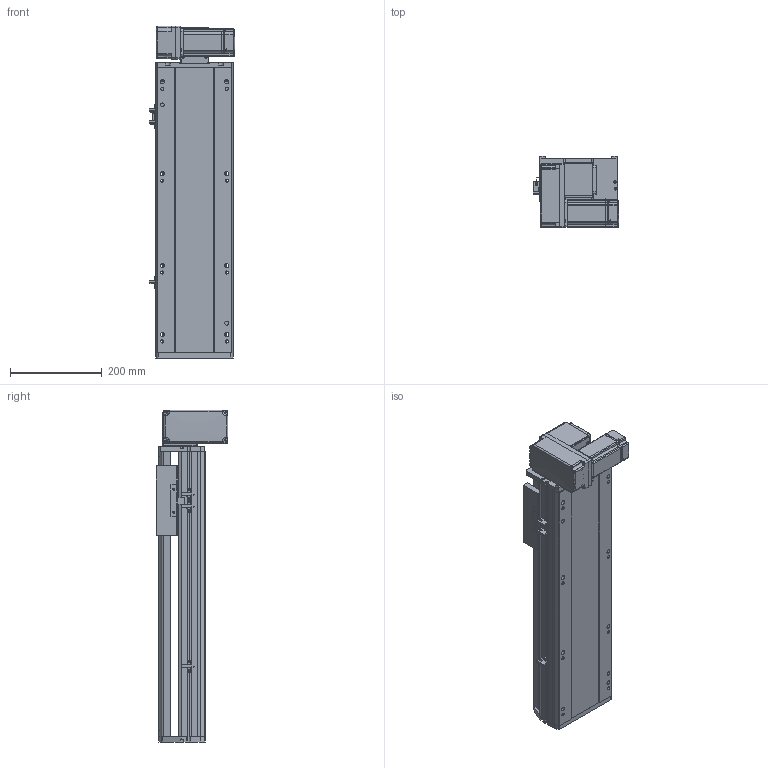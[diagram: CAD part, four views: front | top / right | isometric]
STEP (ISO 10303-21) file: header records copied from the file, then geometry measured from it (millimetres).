
FILE_DESCRIPTION (( 'STEP AP214' ), '1' );
FILE_NAME ('RTB17S-XX-350-LM-M40-C4.STEP', '2025-12-11T06:22:00', ( '' ), ( '' ), 'SwSTEP 2.0', 'SolidWorks 2018', '' );
FILE_SCHEMA (( 'AUTOMOTIVE_DESIGN' ));
Length unit declared in the file: millimetre
Products named in the file (14): RTB14-L-008-M20--萇儂啣^RTB17S-LM-々湍釱蚾饜-400W_RTB17S-XX-XX-LM-M40-C4; 400W侜督萇儂^RTB17S-XX-XX-LM-M40-C4; RTB17S-L-004佪裝蹟譫蟀諉釱^RTB17S-XX-XX-LM-M40-C4; RTB14-L-018P^RTB17S-LM-々湍釱蚾饜-400W_RTB17S-XX-XX-LM-M40-C4; RTB17S-LM-々湍釱蚾饜-400W^RTB17S-XX-XX-LM-M40-C4; RTB14-L-005P--轴承塑胶压盖^RTB17S-LM-皮带座装配-400W_RTB17S-XX-XX-LM-M40-C4; RMP17S-L-014-T20--々湍釱^RTB17S-LM-々湍釱蚾饜-400W_RTB17S-XX-XX-LM-M40-C4; RTH13-BL-012覜茼え俋离^RTB17S-XX-XX-LM-M40-C4; RTB17S-L-007奻裔^RTB17S-XX-XX-LM-M40-C4; RTB17-R-011菁釱^RTB17S-XX-XX-LM-M40-C4; RTB17S-XX-350-LM-M40-C4; RTB14-L-017P^RTB17S-LM-々湍釱蚾饜-400W_RTB17S-XX-XX-LM-M40-C4; OMRON EE-SX672 传感器^RTB17S-XX-XX-LM-M40-C4; RTB17S-L-001耜醱啣^RTB17S-XX-XX-LM-M40-C4
Assembly tree (16 placements, depth 3):
  RTB17S-XX-350-LM-M40-C4
    RTB17-R-011菁釱^RTB17S-XX-XX-LM-M40-C4
    RTB17S-L-007奻裔^RTB17S-XX-XX-LM-M40-C4
    OMRON EE-SX672 传感器^RTB17S-XX-XX-LM-M40-C4  x3
    RTH13-BL-012覜茼え俋离^RTB17S-XX-XX-LM-M40-C4
    RTB17S-L-001耜醱啣^RTB17S-XX-XX-LM-M40-C4
    400W侜督萇儂^RTB17S-XX-XX-LM-M40-C4
    RTB17S-L-004佪裝蹟譫蟀諉釱^RTB17S-XX-XX-LM-M40-C4
    RTB17S-LM-々湍釱蚾饜-400W^RTB17S-XX-XX-LM-M40-C4
      RMP17S-L-014-T20--々湍釱^RTB17S-LM-々湍釱蚾饜-400W_RTB17S-XX-XX-LM-M40-C4
      RTB14-L-005P--轴承塑胶压盖^RTB17S-LM-皮带座装配-400W_RTB17S-XX-XX-LM-M40-C4
      RTB14-L-008-M20--萇儂啣^RTB17S-LM-々湍釱蚾饜-400W_RTB17S-XX-XX-LM-M40-C4
      RTB14-L-017P^RTB17S-LM-々湍釱蚾饜-400W_RTB17S-XX-XX-LM-M40-C4  x2
      RTB14-L-018P^RTB17S-LM-々湍釱蚾饜-400W_RTB17S-XX-XX-LM-M40-C4
Bounding box: 186 x 156.5 x 722.5 mm (x, y, z)
Volume: 7073678.8 mm3; surface area: 920025.4 mm2
Topology: 15 solids, 15 shells, 2157 faces, 5925 edges, 3861 vertices
Faces by surface type: plane 1062, cylinder 647, bspline 301, cone 139, torus 8
Entity records: 60329 total; most frequent: CARTESIAN_POINT 16730, ORIENTED_EDGE 8694, DIRECTION 8126, EDGE_CURVE 4347, VERTEX_POINT 2849, AXIS2_PLACEMENT_3D 2779, VECTOR 2568, LINE 2568
